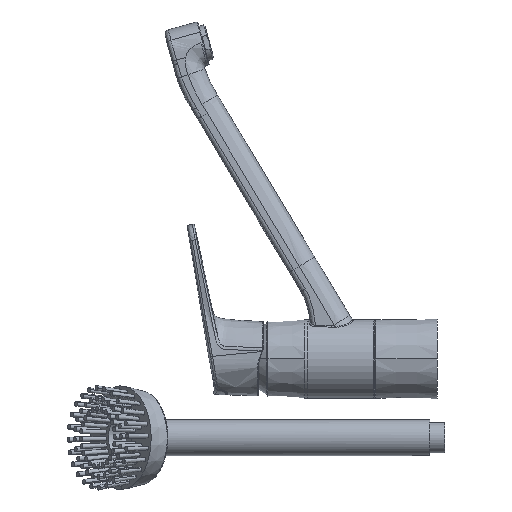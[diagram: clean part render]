
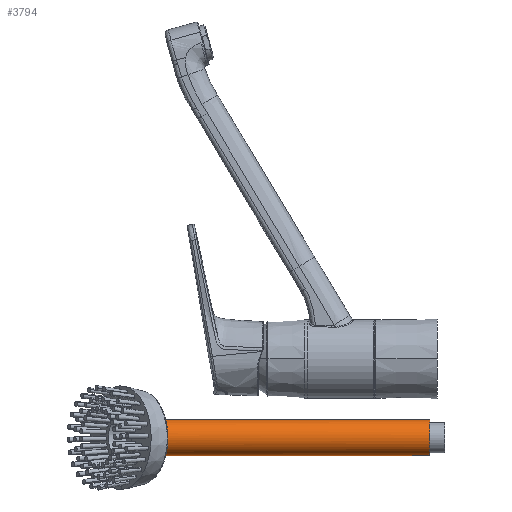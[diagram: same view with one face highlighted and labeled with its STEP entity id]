
A CAD part, left-side view. The second image highlights one B-rep face of the part: STEP entity #3794.
In plain terms, the highlighted cylindrical face has radius 12 mm (diameter 24 mm), a partial arc.
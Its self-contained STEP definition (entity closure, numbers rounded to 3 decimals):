
#3624 = EDGE_CURVE ( 'NONE', #21765, #8954, #34798, .T. ) ;
#3794 = ADVANCED_FACE ( 'NONE', ( #28051 ), #11400, .T. ) ;
#4251 = EDGE_CURVE ( 'NONE', #21765, #36060, #16776, .T. ) ;
#5383 = CARTESIAN_POINT ( 'NONE',  ( 721.198, 334.255, 187.91 ) ) ;
#7179 = CARTESIAN_POINT ( 'NONE',  ( 721.198, 334.255, 175.91 ) ) ;
#7473 = DIRECTION ( 'NONE',  ( 0., -1., 0. ) ) ;
#7874 = CARTESIAN_POINT ( 'NONE',  ( 721.198, 530.998, 199.91 ) ) ;
#8157 = EDGE_CURVE ( 'NONE', #30094, #36060, #36251, .T. ) ;
#8429 = VECTOR ( 'NONE', #7473, 1000. ) ;
#8562 = DIRECTION ( 'NONE',  ( 0., 0., 1. ) ) ;
#8954 = VERTEX_POINT ( 'NONE', #40621 ) ;
#9857 = CARTESIAN_POINT ( 'NONE',  ( 721.198, 334.255, 199.91 ) ) ;
#11400 = CYLINDRICAL_SURFACE ( 'NONE', #25232, 12. ) ;
#14411 = EDGE_CURVE ( 'NONE', #8954, #30094, #22410, .T. ) ;
#14486 = ORIENTED_EDGE ( 'NONE', *, *, #4251, .F. ) ;
#15102 = DIRECTION ( 'NONE',  ( 0., -1., 0. ) ) ;
#15167 = ORIENTED_EDGE ( 'NONE', *, *, #3624, .T. ) ;
#15329 = CARTESIAN_POINT ( 'NONE',  ( 697.198, 513.515, 175.91 ) ) ;
#15738 = ORIENTED_EDGE ( 'NONE', *, *, #14411, .T. ) ;
#16776 = LINE ( 'NONE', #19954, #8429 ) ;
#18603 = CARTESIAN_POINT ( 'NONE',  ( 721.198, 530.998, 199.91 ) ) ;
#19005 = DIRECTION ( 'NONE',  ( 0., 0., -1. ) ) ;
#19954 = CARTESIAN_POINT ( 'NONE',  ( 721.198, 540.255, 199.91 ) ) ;
#21734 = CARTESIAN_POINT ( 'NONE',  ( 721.198, 530.998, 175.91 ) ) ;
#21765 = VERTEX_POINT ( 'NONE', #7874 ) ;
#22410 = LINE ( 'NONE', #33799, #37054 ) ;
#25232 = AXIS2_PLACEMENT_3D ( 'NONE', #25707, #28844, #19005 ) ;
#25707 = CARTESIAN_POINT ( 'NONE',  ( 721.198, 540.255, 187.91 ) ) ;
#26842 = AXIS2_PLACEMENT_3D ( 'NONE', #5383, #27334, #8562 ) ;
#27334 = DIRECTION ( 'NONE',  ( 0., 1., 0. ) ) ;
#28051 = FACE_OUTER_BOUND ( 'NONE', #29558, .T. ) ;
#28844 = DIRECTION ( 'NONE',  ( 0., -1., 0. ) ) ;
#29558 = EDGE_LOOP ( 'NONE', ( #14486, #15167, #15738, #32072 ) ) ;
#30094 = VERTEX_POINT ( 'NONE', #7179 ) ;
#32072 = ORIENTED_EDGE ( 'NONE', *, *, #8157, .T. ) ;
#33799 = CARTESIAN_POINT ( 'NONE',  ( 721.198, 540.255, 175.91 ) ) ;
#34798 =( BOUNDED_CURVE ( )  B_SPLINE_CURVE ( 3, ( #18603, #37163, #15329, #21734 ),
 .UNSPECIFIED., .F., .T. ) 
 B_SPLINE_CURVE_WITH_KNOTS ( ( 4, 4 ),
 ( 4.712, 7.854 ),
 .UNSPECIFIED. ) 
 CURVE ( )  GEOMETRIC_REPRESENTATION_ITEM ( )  RATIONAL_B_SPLINE_CURVE ( ( 1., 0.333, 0.333, 1. ) ) 
 REPRESENTATION_ITEM ( '' )  );
#36060 = VERTEX_POINT ( 'NONE', #9857 ) ;
#36251 = CIRCLE ( 'NONE', #26842, 12. ) ;
#37054 = VECTOR ( 'NONE', #15102, 1000. ) ;
#37163 = CARTESIAN_POINT ( 'NONE',  ( 697.198, 513.515, 199.91 ) ) ;
#40621 = CARTESIAN_POINT ( 'NONE',  ( 721.198, 530.998, 175.91 ) ) ;
